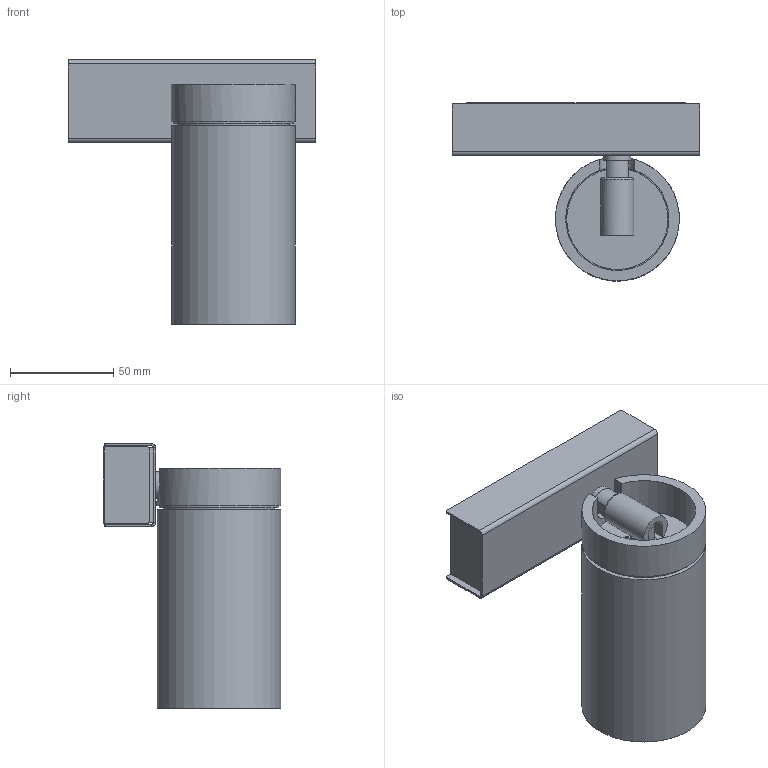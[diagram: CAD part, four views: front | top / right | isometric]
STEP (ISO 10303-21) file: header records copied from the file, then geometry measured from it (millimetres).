
FILE_DESCRIPTION(/* description */ (''),/* implementation_level */ '2;1');
FILE_NAME(/* name */ 'DOT ENDLESS.stp',/* time_stamp */ '2023-02-17T11:43:33+01:00',/* author */ ('n.bisotti'),/* organization */ (''),/* preprocessor_version */ 'ST-DEVELOPER v19.2',/* originating_system */ 'Autodesk Inventor 2023',/* authorisation */ '');
FILE_SCHEMA (('AUTOMOTIVE_DESIGN { 1 0 10303 214 3 1 1 }'));
Length unit declared in the file: millimetre
Products named in the file (1): Parte3
Bounding box: 120 x 86.1 x 127.9 mm (x, y, z)
Volume: 168375.2 mm3; surface area: 119699.1 mm2
Topology: 13 solids, 13 shells, 234 faces, 536 edges, 336 vertices
Faces by surface type: plane 129, cylinder 90, cone 11, torus 2, sphere 2
Full cylindrical faces by diameter (mm): 1.6 x2, 2.459 x3, 3 x1, 6.8 x1, 8.917 x2, 13 x1, 16 x1, 48 x1, 49 x1, 50 x1, 51.9 x1, 53 x1, 54 x1, 54.5 x2, 55 x1, 55.835 x1, 57.5 x1, 58 x3, 60 x2
Entity records: 7036 total; most frequent: CARTESIAN_POINT 1254, DIRECTION 1180, ORIENTED_EDGE 1066, EDGE_CURVE 533, AXIS2_PLACEMENT_3D 436, VERTEX_POINT 336, LINE 308, VECTOR 308
